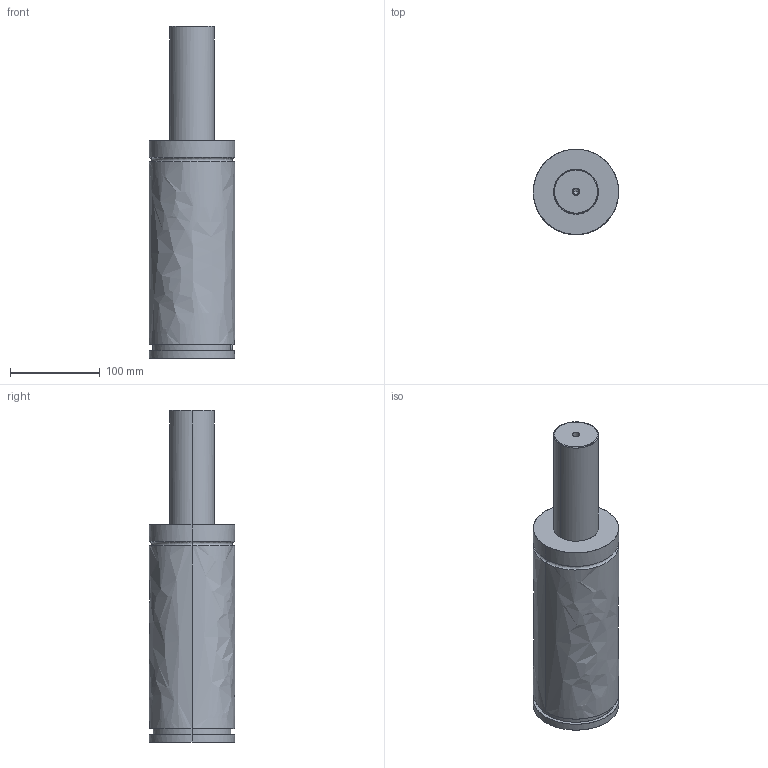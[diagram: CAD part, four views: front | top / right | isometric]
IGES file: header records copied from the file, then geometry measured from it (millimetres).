
Global section: file name: E:\UnigraphicsGraphicData\MISUMI_PRESS-PARTS\IGES\3d_gse95-125_03866_r00.igs; native system: NX V5.0; preprocessor: UGS NX IGES V5.0; author: MISUMI; date: 20110105.160803; units: millimetre
Bounding box: 95 x 95 x 370 mm (x, y, z)
Surface area: 111803.3 mm2 (no closed solid volume)
Topology: 0 solids, 0 shells, 75 faces, 604 edges, 602 vertices
Faces by surface type: bspline 75
